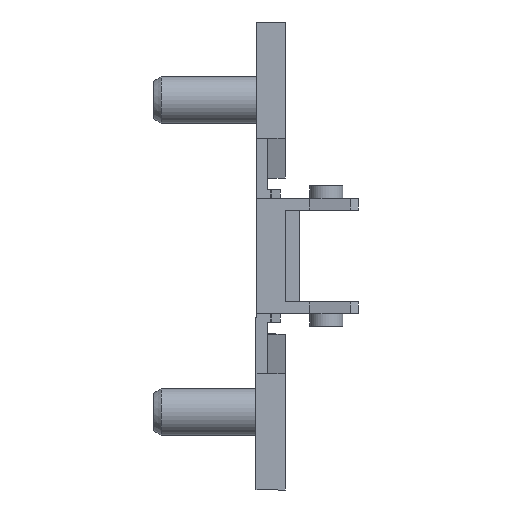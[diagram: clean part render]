
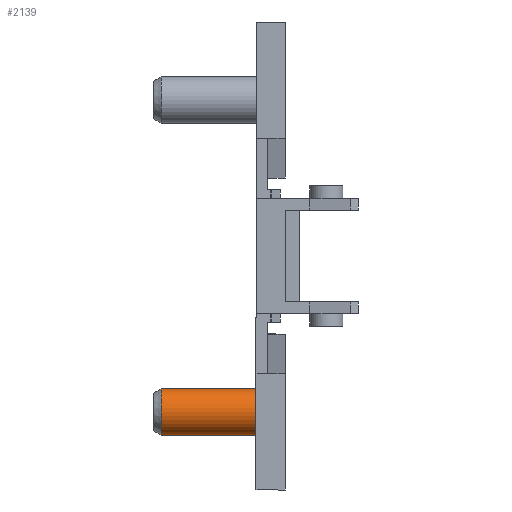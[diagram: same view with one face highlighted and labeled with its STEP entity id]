
A CAD part, front view. The second image highlights one B-rep face of the part: STEP entity #2139.
In plain terms, the highlighted cylindrical face has radius 2.4 mm (diameter 4.8 mm), a partial arc.
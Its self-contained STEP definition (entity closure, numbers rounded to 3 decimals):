
#85 = ORIENTED_EDGE ( 'NONE', *, *, #3462, .T. ) ;
#90 = ORIENTED_EDGE ( 'NONE', *, *, #3860, .F. ) ;
#92 = ORIENTED_EDGE ( 'NONE', *, *, #3789, .F. ) ;
#675 = CARTESIAN_POINT ( 'NONE',  ( -10.5, 0., -13.6 ) ) ;
#677 = DIRECTION ( 'NONE',  ( -1., 0., 0. ) ) ;
#1125 = CARTESIAN_POINT ( 'NONE',  ( -10.5, 0., -18.4 ) ) ;
#1126 = DIRECTION ( 'NONE',  ( -1., 0., 0. ) ) ;
#1272 = CARTESIAN_POINT ( 'NONE',  ( 0.695, 0., -16. ) ) ;
#1276 = DIRECTION ( 'NONE',  ( 1., 0., 0. ) ) ;
#1277 = DIRECTION ( 'NONE',  ( 0., 0., -1. ) ) ;
#1401 = CARTESIAN_POINT ( 'NONE',  ( -9.7, 0., -16. ) ) ;
#1405 = DIRECTION ( 'NONE',  ( 1., 0., 0. ) ) ;
#1406 = DIRECTION ( 'NONE',  ( 0., 0., -1. ) ) ;
#1768 = LINE ( 'NONE', #1125, #1769 ) ;
#1769 = VECTOR ( 'NONE', #1126, 1000. ) ;
#1925 = CIRCLE ( 'NONE', #3770, 2.4 ) ;
#2021 = CIRCLE ( 'NONE', #3531, 2.4 ) ;
#2139 = ADVANCED_FACE ( 'NONE', ( #4069 ), #4070, .T. ) ;
#2209 = VERTEX_POINT ( 'NONE', #2990 ) ;
#2210 = VERTEX_POINT ( 'NONE', #2991 ) ;
#2212 = VERTEX_POINT ( 'NONE', #2992 ) ;
#2213 = VERTEX_POINT ( 'NONE', #2993 ) ;
#2837 = DIRECTION ( 'NONE',  ( 0., 0., -1. ) ) ;
#2838 = DIRECTION ( 'NONE',  ( -1., 0., 0. ) ) ;
#2839 = CARTESIAN_POINT ( 'NONE',  ( -10.5, 0., -16. ) ) ;
#2990 = CARTESIAN_POINT ( 'NONE',  ( -9.7, 0., -13.6 ) ) ;
#2991 = CARTESIAN_POINT ( 'NONE',  ( -9.7, 0., -18.4 ) ) ;
#2992 = CARTESIAN_POINT ( 'NONE',  ( 0.695, 0., -13.6 ) ) ;
#2993 = CARTESIAN_POINT ( 'NONE',  ( 0.695, 0., -18.4 ) ) ;
#3462 = EDGE_CURVE ( 'NONE', #2212, #2209, #4242, .T. ) ;
#3531 = AXIS2_PLACEMENT_3D ( 'NONE', #1401, #1405, #1406 ) ;
#3702 = AXIS2_PLACEMENT_3D ( 'NONE', #2839, #2838, #2837 ) ;
#3770 = AXIS2_PLACEMENT_3D ( 'NONE', #1272, #1276, #1277 ) ;
#3789 = EDGE_CURVE ( 'NONE', #2213, #2210, #1768, .T. ) ;
#3860 = EDGE_CURVE ( 'NONE', #2212, #2213, #1925, .T. ) ;
#3937 = EDGE_CURVE ( 'NONE', #2209, #2210, #2021, .T. ) ;
#4069 = FACE_OUTER_BOUND ( 'NONE', #4459, .T. ) ;
#4070 = CYLINDRICAL_SURFACE ( 'NONE', #3702, 2.4 ) ;
#4242 = LINE ( 'NONE', #675, #4243 ) ;
#4243 = VECTOR ( 'NONE', #677, 1000. ) ;
#4420 = ORIENTED_EDGE ( 'NONE', *, *, #3937, .T. ) ;
#4459 = EDGE_LOOP ( 'NONE', ( #90, #85, #4420, #92 ) ) ;
